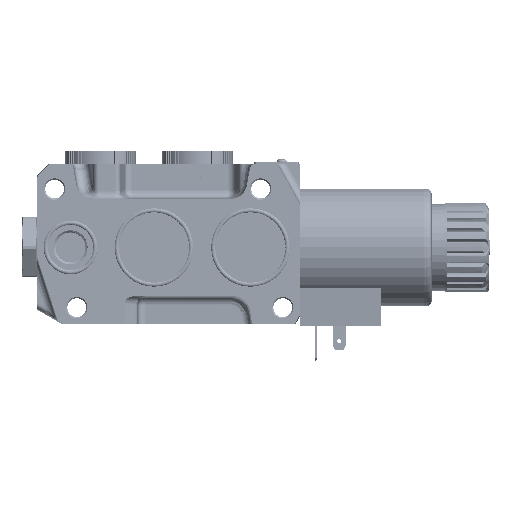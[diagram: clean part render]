
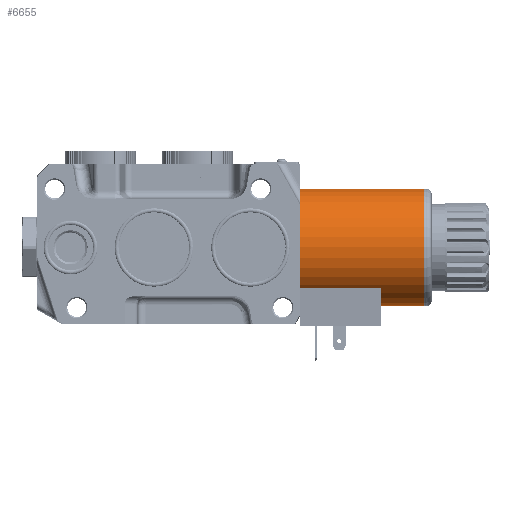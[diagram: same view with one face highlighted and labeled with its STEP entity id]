
A CAD part, front view. The second image highlights one B-rep face of the part: STEP entity #6655.
In plain terms, the highlighted cylindrical face has radius 22.6 mm (diameter 45.2 mm), a full revolution.
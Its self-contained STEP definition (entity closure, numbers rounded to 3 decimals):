
#3917=FACE_BOUND('',#13599,.T.);
#3918=FACE_BOUND('',#13600,.T.);
#6655=ADVANCED_FACE('',(#3917,#3918),#7756,.T.);
#7756=CYLINDRICAL_SURFACE('',#59973,22.6);
#13599=EDGE_LOOP('',(#39497));
#13600=EDGE_LOOP('',(#39498));
#39497=ORIENTED_EDGE('',*,*,#53728,.T.);
#39498=ORIENTED_EDGE('',*,*,#53726,.T.);
#46098=VERTEX_POINT('',#172429);
#46100=VERTEX_POINT('',#172434);
#53726=EDGE_CURVE('',#46098,#46098,#55960,.T.);
#53728=EDGE_CURVE('',#46100,#46100,#55962,.T.);
#55960=CIRCLE('',#59969,22.6);
#55962=CIRCLE('',#59972,22.6);
#59969=AXIS2_PLACEMENT_3D('',#172428,#72539,#72540);
#59972=AXIS2_PLACEMENT_3D('',#172433,#72545,#72546);
#59973=AXIS2_PLACEMENT_3D('',#172435,#72547,#72548);
#72539=DIRECTION('',(1.,0.,0.));
#72540=DIRECTION('',(0.,0.,-1.));
#72545=DIRECTION('',(-1.,0.,0.));
#72546=DIRECTION('',(0.,0.,1.));
#72547=DIRECTION('',(1.,0.,0.));
#72548=DIRECTION('',(0.,0.,-1.));
#172428=CARTESIAN_POINT('',(18.8,0.,0.026));
#172429=CARTESIAN_POINT('',(18.8,0.,-22.574));
#172433=CARTESIAN_POINT('',(66.3,0.,0.026));
#172434=CARTESIAN_POINT('',(66.3,0.,22.626));
#172435=CARTESIAN_POINT('',(6.445,0.,0.026));
